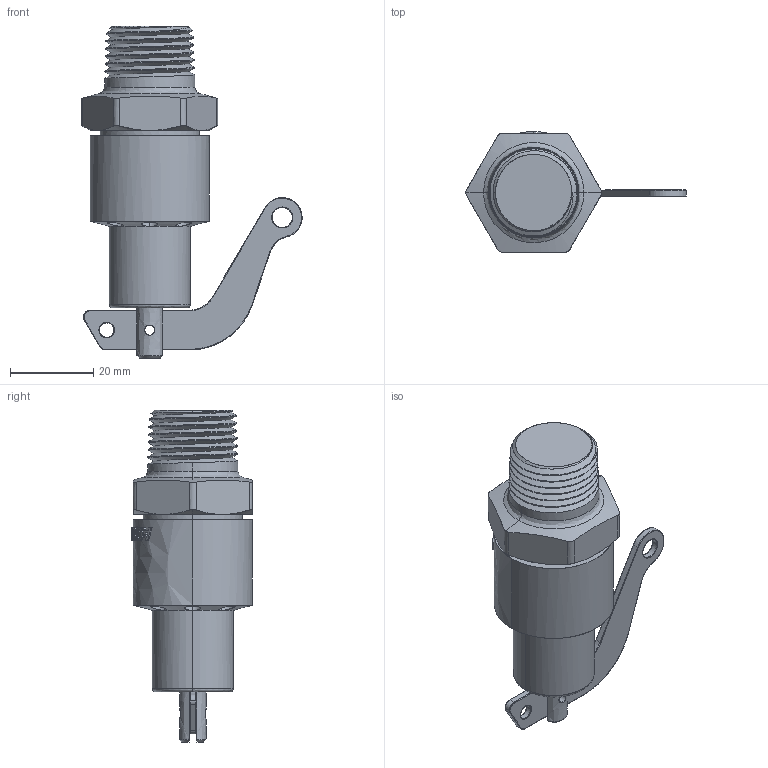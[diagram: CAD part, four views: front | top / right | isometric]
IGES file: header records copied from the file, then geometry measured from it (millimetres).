
Start section: SolidWorks IGES file using NURBS representation for surfaces
Global section: file name: C:\Design\Design\Aquatrol\Customer 3D Files\Series 130\Series 130\Series 130 500 inch\Customer\Series 130 500 inch.IGS; native system: SolidWorks 2015; preprocessor: SolidWorks 2015; author: Karl; date: 150518.100929; units: inch
Bounding box: 52.77 x 28.96 x 79.54 mm (x, y, z)
Surface area: 9079.1 mm2 (no closed solid volume)
Topology: 0 solids, 0 shells, 262 faces, 4619 edges, 4619 vertices
Faces by surface type: bspline 262
